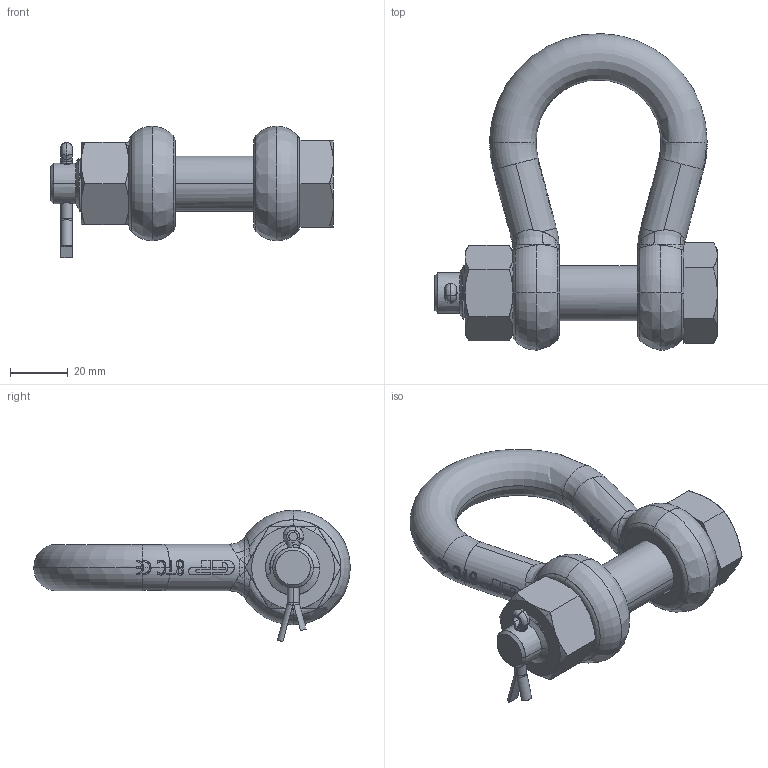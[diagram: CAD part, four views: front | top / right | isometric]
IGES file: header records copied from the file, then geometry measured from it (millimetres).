
Start section: START RECORD GO HERE.
Global section: file name: POGHMB16.igs; native system: Solidworks 2009                             ; preprocessor: Solidworks                 ; author: v.b.; organization: P4; date: 20090826.095101; units: millimetre
Bounding box: 97.5 x 109.24 x 45.34 mm (x, y, z)
Surface area: 29305.4 mm2 (no closed solid volume)
Topology: 0 solids, 0 shells, 808 faces, 5146 edges, 5137 vertices
Faces by surface type: bspline 360, plane 238, revolution 210
